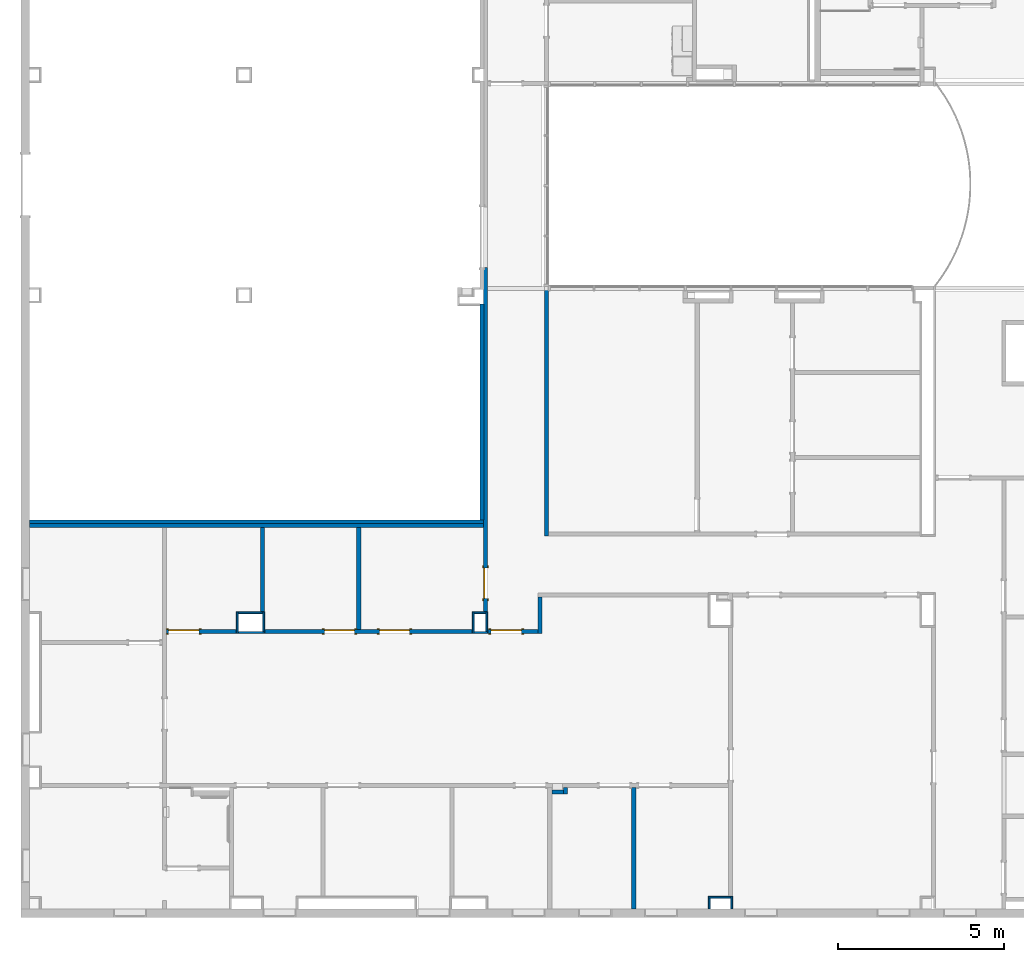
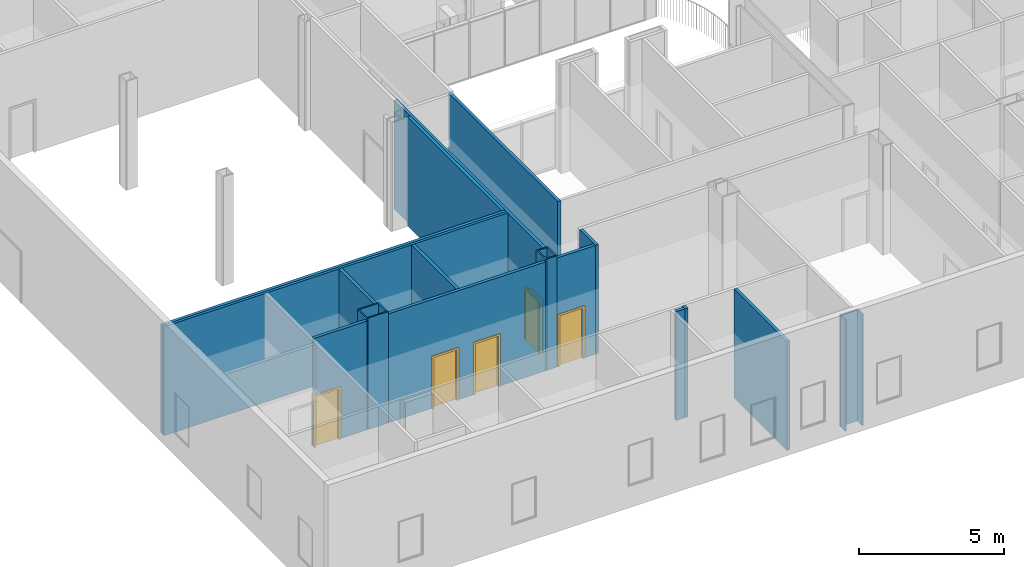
# One storey, part 7 of 45: 25 walls, 5 doors, 5 openings.
"""IFC2X3 building model written with IfcOpenShell, lengths in metres."""

from ifc_helpers import new_model, entity, si_unit, converted_unit, frame, frame_2d, origin, origin_2d_with_axis, place, context, project, spatial, polyline, rectangle, outline, extrude, source, transform, mapped, material, layer, layer_set, layer_usage, type_object, type_shapes, element, fill, save


model = new_model("IFC2X3")

# Units and contexts
model_context = context("Model", 3, precision=1e-09, world=origin())
plan_context = context("Plan", 3, precision=1e-09, world=origin())
ifc_project = project(units=[si_unit("LENGTHUNIT", "METRE"), si_unit("AREAUNIT", "SQUARE_METRE"), si_unit("VOLUMEUNIT", "CUBIC_METRE"), converted_unit("PLANEANGLEUNIT", "DEGREE", entity("IfcRatioMeasure", 0.01745329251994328), si_unit("PLANEANGLEUNIT", "RADIAN"), dimensions=[0, 0, 0, 0, 0, 0, 0]), si_unit("TIMEUNIT", "SECOND")], contexts=[model_context, plan_context])

# Site, building, storey
site_placement = place(None, origin())
site = spatial("IfcSite", under=ifc_project, at=site_placement, Name="Default", CompositionType="ELEMENT")
building_placement = place(site_placement, origin())
building = spatial("IfcBuilding", under=site, at=building_placement, CompositionType="ELEMENT")
storey_placement = place(building_placement, frame((0.0, 0.0, 4.570000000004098)))
storey = spatial("IfcBuildingStorey", under=building, at=storey_placement, Name="Second Floor", CompositionType="ELEMENT", Elevation=4.570000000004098)

# Wall, opening, door
ifc_material_1 = material(Name="Plasterboard")
ifc_layer_1 = layer(ifc_material_1, 0.016)
ifc_material_2 = material(Name="Metal - Stud Layer")
ifc_layer_2 = layer(ifc_material_2, 0.092)
ifc_layer_3 = layer(ifc_material_1, 0.016)
ifc_layer_set_1 = layer_set([ifc_layer_1, ifc_layer_2, ifc_layer_3], Name="Basic Wall:Interior - Partition (92mm Stud)")
ifc_layer_usage_1 = layer_usage(ifc_layer_set_1, "AXIS2", "NEGATIVE", 0.062)
wall_1_placement = place(storey_placement, frame((-33.3820000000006, 29.24387433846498, 0.0), z_axis=(0.0, 0.0, 1.0), x_axis=(0.0, -1.0, 0.0)))
wall_1 = element("IfcWallStandardCase", 1, at=wall_1_placement, inside=storey, material=ifc_layer_usage_1, Name="Basic Wall:Interior - Partition (92mm Stud)", ObjectType="Basic Wall:Interior - Partition (92mm Stud)", context=model_context, shape_type="SweptSolid", body=[
    extrude(rectangle(XDim=10.36943562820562, YDim=0.1239999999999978, at=frame_2d((5.18471781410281, 0.0), x_axis=(-1.0, 0.0))), origin(), (0.0, 0.0, 1.0), 4.577999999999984),
])
opening_1_placement = place(wall_1_placement, frame((9.969435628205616, 0.06199999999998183, 0.0)))
opening_1 = element("IfcOpeningElement", 2, at=opening_1_placement, cuts=wall_1, Name="M_Single-Flush:0915 x 2134mm:0915 x 2134mm:1", ObjectType="Opening", context=model_context, shape_type="SweptSolid", body=[
    extrude(rectangle(XDim=0.9149999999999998, YDim=2.134, at=frame_2d((1.067, 0.4574999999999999), x_axis=(0.0, -1.0))), frame((0.0, 0.0, 0.0), z_axis=(0.0, -1.0, 0.0), x_axis=(0.0, 0.0, 1.0)), (0.0, 0.0, 1.0), 0.124),
])
door_style_1 = type_object("IfcDoorStyle", Name="0915 x 2134mm", ConstructionType="NOTDEFINED", OperationType="SINGLE_SWING_LEFT", ParameterTakesPrecedence=False, Sizeable=False)
shared_shape_1 = source(origin(), model_context, "Body", "SweptSolid", [
    extrude(outline(polyline([(-0.5335, -1.123999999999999), (0.5334999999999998, -1.123999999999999), (0.5334999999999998, 1.086), (0.4574999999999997, 1.086), (0.4574999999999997, -1.048000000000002), (-0.4574999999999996, -1.048000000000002), (-0.4574999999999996, 1.086), (-0.5335, 1.086), (-0.5335, -1.123999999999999)])), frame((0.4575000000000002, 0.1489999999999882, 1.086), z_axis=(0.0, -1.0, 0.0), x_axis=(-1.0, 0.0, 0.0)), (0.0, 0.0, 1.0), 0.02499999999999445),
    extrude(outline(polyline([(-1.123999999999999, -0.5334999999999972), (1.085999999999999, -0.5334999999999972), (1.085999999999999, -0.4575000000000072), (-1.048, -0.4575000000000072), (-1.048, 0.4575000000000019), (1.085999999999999, 0.4575000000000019), (1.085999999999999, 0.5335000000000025), (-1.123999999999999, 0.5335000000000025), (-1.123999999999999, -0.5334999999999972)])), frame((0.4574999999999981, 0.0, 1.085999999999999), z_axis=(0.0, -1.0, 0.0), x_axis=(0.0, 0.0, -1.0)), (0.0, 0.0, 1.0), 0.02500000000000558),
    extrude(rectangle(XDim=0.9149999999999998, YDim=0.051, at=origin_2d_with_axis()), frame((0.4575000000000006, 0.09849999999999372, 0.0)), (0.0, 0.0, 1.0), 2.133999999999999),
])
type_shapes(door_style_1, [shared_shape_1])
door_1_placement = place(opening_1_placement, frame((0.0, 0.0, 0.0), z_axis=(0.0, 0.0, 1.0), x_axis=(-1.0, 0.0, 0.0)))
door_1 = element("IfcDoor", 3, at=door_1_placement, inside=storey, type_object=door_style_1, Name="M_Single-Flush:0915 x 2134mm:0915 x 2134mm", ObjectType="0915 x 2134mm", OverallHeight=2.134, OverallWidth=0.9149999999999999, context=model_context, shape_type="MappedRepresentation", body=[
    mapped(shared_shape_1, transform((0.0, 0.0, 0.0), scale=1.0)),
])
fill(opening_1, door_1)

# Wall, openings, doors
wall_2_placement = place(storey_placement, frame((-33.78000000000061, 18.28643871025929, 0.0), z_axis=(0.0, 0.0, 1.0), x_axis=(-1.0, 0.0, 0.0)))
wall_2 = element("IfcWallStandardCase", 4, at=wall_2_placement, inside=storey, material=ifc_layer_usage_1, Name="Basic Wall:Interior - Partition (92mm Stud)", ObjectType="Basic Wall:Interior - Partition (92mm Stud)", context=model_context, shape_type="SweptSolid", body=[
    extrude(rectangle(XDim=6.254999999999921, YDim=0.1240000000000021, at=frame_2d((3.12749999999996, 0.0), x_axis=(-1.0, 0.0))), origin(), (0.0, 0.0, 1.0), 4.577999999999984),
])
opening_2_placement = place(wall_2_placement, frame((2.799999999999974, 0.06199999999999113, 0.0)))
opening_2 = element("IfcOpeningElement", 5, at=opening_2_placement, cuts=wall_2, Name=":1", ObjectType="Opening", context=model_context, shape_type="SweptSolid", body=[
    extrude(rectangle(XDim=0.9149999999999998, YDim=2.134, at=frame_2d((1.067, 0.4574999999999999), x_axis=(0.0, -1.0))), frame((0.0, 0.0, 0.0), z_axis=(0.0, -1.0, 0.0), x_axis=(0.0, 0.0, 1.0)), (0.0, 0.0, 1.0), 0.124),
])
opening_3_placement = place(wall_2_placement, frame((4.458999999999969, 0.06199999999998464, 0.0)))
opening_3 = element("IfcOpeningElement", 6, at=opening_3_placement, cuts=wall_2, Name=":1", ObjectType="Opening", context=model_context, shape_type="SweptSolid", body=[
    extrude(rectangle(XDim=0.9149999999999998, YDim=2.134, at=frame_2d((1.067, 0.4575), x_axis=(0.0, 1.0))), frame((0.0, 0.0, 0.0), z_axis=(0.0, -1.0, 0.0), x_axis=(0.0, 0.0, 1.0)), (0.0, 0.0, 1.0), 0.124),
])
door_style_2 = type_object("IfcDoorStyle", Name="0915 x 2134mm", ConstructionType="NOTDEFINED", OperationType="SINGLE_SWING_RIGHT", ParameterTakesPrecedence=False, Sizeable=False)
shared_shape_2 = source(origin(), model_context, "Body", "SweptSolid", [
    extrude(outline(polyline([(-0.5335, -1.123999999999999), (0.5334999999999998, -1.123999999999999), (0.5334999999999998, 1.086), (0.4574999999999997, 1.086), (0.4574999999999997, -1.048000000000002), (-0.4574999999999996, -1.048000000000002), (-0.4574999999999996, 1.086), (-0.5335, 1.086), (-0.5335, -1.123999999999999)])), frame((0.4575000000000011, 0.1239999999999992, 1.086), z_axis=(0.0, 1.0, 0.0), x_axis=(1.0, 0.0, 0.0)), (0.0, 0.0, 1.0), 0.02499999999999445),
    extrude(outline(polyline([(-1.123999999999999, -0.5334999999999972), (1.085999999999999, -0.5334999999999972), (1.085999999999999, -0.4575000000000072), (-1.048, -0.4575000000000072), (-1.048, 0.4575000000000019), (1.085999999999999, 0.4575000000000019), (1.085999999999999, 0.5335000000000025), (-1.123999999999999, 0.5335000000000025), (-1.123999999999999, -0.5334999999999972)])), frame((0.4575000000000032, -0.02500000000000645, 1.085999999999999), z_axis=(0.0, 1.0, 0.0), x_axis=(0.0, 0.0, -1.0)), (0.0, 0.0, 1.0), 0.02500000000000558),
    extrude(rectangle(XDim=0.051, YDim=0.9149999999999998, at=origin_2d_with_axis()), frame((0.4575000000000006, 0.09849999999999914, 0.0), z_axis=(0.0, 0.0, 1.0), x_axis=(0.0, 1.0, 0.0)), (0.0, 0.0, 1.0), 2.133999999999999),
])
type_shapes(door_style_2, [shared_shape_2])
door_2_placement = place(opening_3_placement, frame((0.0, 0.0, 0.0), z_axis=(0.0, 0.0, 1.0), x_axis=(-1.0, 0.0, 0.0)))
door_2 = element("IfcDoor", 7, at=door_2_placement, inside=storey, type_object=door_style_2, Name="M_Single-Flush:0915 x 2134mm:0915 x 2134mm", ObjectType="0915 x 2134mm", OverallHeight=2.134, OverallWidth=0.9149999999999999, context=model_context, shape_type="MappedRepresentation", body=[
    mapped(shared_shape_2, transform((0.0, 0.0, 0.0), scale=1.0)),
])
fill(opening_3, door_2)
door_3_placement = place(opening_2_placement, frame((0.0, 0.0, 0.0), z_axis=(0.0, 0.0, 1.0), x_axis=(-1.0, 0.0, 0.0)))
door_3 = element("IfcDoor", 8, at=door_3_placement, inside=storey, type_object=door_style_1, Name="M_Single-Flush:0915 x 2134mm:0915 x 2134mm", ObjectType="0915 x 2134mm", OverallHeight=2.134, OverallWidth=0.9149999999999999, context=model_context, shape_type="MappedRepresentation", body=[
    mapped(shared_shape_1, transform((0.0, 0.0, 0.0), scale=1.0)),
])
fill(opening_2, door_3)

# Wall
wall_3_placement = place(storey_placement, frame((-33.44400000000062, 21.47643871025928, 0.0), z_axis=(0.0, 0.0, 1.0), x_axis=(-1.0, 0.0, 0.0)))
element("IfcWallStandardCase", 9, at=wall_3_placement, inside=storey, material=ifc_layer_usage_1, Name="Basic Wall:Interior - Partition (92mm Stud)", ObjectType="Basic Wall:Interior - Partition (92mm Stud)", context=model_context, shape_type="SweptSolid", body=[
    extrude(rectangle(XDim=13.669, YDim=0.1239999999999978, at=frame_2d((6.834500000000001, 0.0), x_axis=(-1.0, 0.0))), origin(), (0.0, 0.0, 1.0), 4.577999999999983),
])

# Wall, opening, door
wall_4_placement = place(storey_placement, frame((-31.80000000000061, 18.28643871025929, 0.0), z_axis=(0.0, 0.0, 1.0), x_axis=(-1.0, 0.0, 0.0)))
wall_4 = element("IfcWallStandardCase", 10, at=wall_4_placement, inside=storey, material=ifc_layer_usage_1, Name="Basic Wall:Interior - Partition (92mm Stud)", ObjectType="Basic Wall:Interior - Partition (92mm Stud)", context=model_context, shape_type="SweptSolid", body=[
    extrude(rectangle(XDim=1.520000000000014, YDim=0.1240000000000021, at=frame_2d((0.760000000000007, 0.0), x_axis=(-1.0, 0.0))), origin(), (0.0, 0.0, 1.0), 4.577999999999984),
])
opening_4_placement = place(wall_4_placement, frame((1.42000000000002, 0.06199999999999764, 0.0)))
opening_4 = element("IfcOpeningElement", 11, at=opening_4_placement, cuts=wall_4, Name="M_Single-Flush:0915 x 2134mm:0915 x 2134mm:1", ObjectType="Opening", context=model_context, shape_type="SweptSolid", body=[
    extrude(rectangle(XDim=0.9149999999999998, YDim=2.134, at=frame_2d((1.067, 0.4575000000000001), x_axis=(0.0, -1.0))), frame((0.0, 0.0, 0.0), z_axis=(0.0, -1.0, 0.0), x_axis=(0.0, 0.0, 1.0)), (0.0, 0.0, 1.0), 0.124),
])
door_4_placement = place(opening_4_placement, frame((0.0, 0.0, 0.0), z_axis=(0.0, 0.0, 1.0), x_axis=(-1.0, 0.0, 0.0)))
door_4 = element("IfcDoor", 12, at=door_4_placement, inside=storey, type_object=door_style_1, Name="M_Single-Flush:0915 x 2134mm:0915 x 2134mm", ObjectType="0915 x 2134mm", OverallHeight=2.134, OverallWidth=0.9149999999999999, context=model_context, shape_type="MappedRepresentation", body=[
    mapped(shared_shape_1, transform((0.0, 0.0, 0.0), scale=1.0)),
])
fill(opening_4, door_4)

# Walls
wall_5_placement = place(storey_placement, frame((-31.54800000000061, 28.69019840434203, 0.0), z_axis=(0.0, 0.0, 1.0), x_axis=(0.0, -1.0, 0.0)))
element("IfcWallStandardCase", 13, at=wall_5_placement, inside=storey, material=ifc_layer_usage_1, Name="Basic Wall:Interior - Partition (92mm Stud)", ObjectType="Basic Wall:Interior - Partition (92mm Stud)", context=model_context, shape_type="SweptSolid", body=[
    extrude(rectangle(XDim=7.53575969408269, YDim=0.1240000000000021, at=frame_2d((3.767879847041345, 0.0), x_axis=(-1.0, 0.0))), origin(), (0.0, 0.0, 1.0), 4.577999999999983),
])
ifc_layer_4 = layer(ifc_material_2, 0.038)
ifc_layer_5 = layer(ifc_material_1, 0.016)
ifc_layer_set_2 = layer_set([ifc_layer_4, ifc_layer_5], Name="Basic Wall:Interior - Furring (38 mm Stud)")
ifc_layer_usage_2 = layer_usage(ifc_layer_set_2, "AXIS2", "NEGATIVE", 0.027)
wall_6_placement = place(storey_placement, frame((-33.34700000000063, 18.27843871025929, 0.0), z_axis=(0.0, 0.0, 1.0), x_axis=(0.0, 1.0, 0.0)))
element("IfcWallStandardCase", 14, at=wall_6_placement, inside=storey, material=ifc_layer_usage_2, Name="Basic Wall:Interior - Furring (38 mm Stud)", ObjectType="Basic Wall:Interior - Furring (38 mm Stud)", context=model_context, shape_type="SweptSolid", body=[
    extrude(rectangle(XDim=0.5960000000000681, YDim=0.05399999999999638, at=frame_2d((0.2980000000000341, 0.0), x_axis=(-1.0, 0.0))), origin(), (0.0, 0.0, 1.0), 4.679999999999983),
])
wall_7_placement = place(storey_placement, frame((-40.09700000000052, 21.4144387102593, 0.0), z_axis=(0.0, 0.0, 1.0), x_axis=(0.0, -1.0, 0.0)))
element("IfcWallStandardCase", 15, at=wall_7_placement, inside=storey, material=ifc_layer_usage_1, Name="Basic Wall:Interior - Partition (92mm Stud)", ObjectType="Basic Wall:Interior - Partition (92mm Stud)", context=model_context, shape_type="SweptSolid", body=[
    extrude(rectangle(XDim=2.539999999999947, YDim=0.1240000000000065, at=frame_2d((1.269999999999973, 0.0), x_axis=(-1.0, 0.0))), origin(), (0.0, 0.0, 1.0), 4.577999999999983),
])
wall_8_placement = place(storey_placement, frame((-40.06200000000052, 18.27843871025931, 0.0), z_axis=(0.0, 0.0, 1.0), x_axis=(0.0, 1.0, 0.0)))
element("IfcWallStandardCase", 16, at=wall_8_placement, inside=storey, material=ifc_layer_usage_2, Name="Basic Wall:Interior - Furring (38 mm Stud)", ObjectType="Basic Wall:Interior - Furring (38 mm Stud)", context=model_context, shape_type="SweptSolid", body=[
    extrude(rectangle(XDim=0.5960000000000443, YDim=0.05400000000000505, at=frame_2d((0.2980000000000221, 0.0), x_axis=(-1.0, 0.0))), origin(), (0.0, 0.0, 1.0), 4.679999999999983),
])
wall_9_placement = place(storey_placement, frame((-33.72600000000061, 18.25143871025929, 0.0)))
element("IfcWallStandardCase", 17, at=wall_9_placement, inside=storey, material=ifc_layer_usage_2, Name="Basic Wall:Interior - Furring (38 mm Stud)", ObjectType="Basic Wall:Interior - Furring (38 mm Stud)", context=model_context, shape_type="SweptSolid", body=[
    extrude(rectangle(XDim=0.40599999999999, YDim=0.05400000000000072, at=frame_2d((0.202999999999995, 0.0), x_axis=(-1.0, 0.0))), origin(), (0.0, 0.0, 1.0), 4.679999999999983),
])

# Wall, opening, door
wall_10_placement = place(storey_placement, frame((-40.8900000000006, 18.28643871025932, 0.0), z_axis=(0.0, 0.0, 1.0), x_axis=(-1.0, 0.0, 0.0)))
wall_10 = element("IfcWallStandardCase", 18, at=wall_10_placement, inside=storey, material=ifc_layer_usage_1, Name="Basic Wall:Interior - Partition (92mm Stud)", ObjectType="Basic Wall:Interior - Partition (92mm Stud)", context=model_context, shape_type="SweptSolid", body=[
    extrude(rectangle(XDim=2.095999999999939, YDim=0.1240000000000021, at=frame_2d((1.04799999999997, 0.0), x_axis=(-1.0, 0.0))), origin(), (0.0, 0.0, 1.0), 4.577999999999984),
])
opening_5_placement = place(wall_10_placement, frame((2.035999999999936, 0.06199999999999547, 0.0)))
opening_5 = element("IfcOpeningElement", 19, at=opening_5_placement, cuts=wall_10, Name=":1", ObjectType="Opening", context=model_context, shape_type="SweptSolid", body=[
    extrude(rectangle(XDim=0.9149999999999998, YDim=2.134, at=frame_2d((1.067, 0.4575000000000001), x_axis=(0.0, -1.0))), frame((0.0, 0.0, 0.0), z_axis=(0.0, -1.0, 0.0), x_axis=(0.0, 0.0, 1.0)), (0.0, 0.0, 1.0), 0.124),
])
door_5_placement = place(opening_5_placement, frame((0.0, 0.0, 0.0), z_axis=(0.0, 0.0, 1.0), x_axis=(-1.0, 0.0, 0.0)))
door_5 = element("IfcDoor", 20, at=door_5_placement, inside=storey, type_object=door_style_1, Name="M_Single-Flush:0915 x 2134mm:0915 x 2134mm", ObjectType="0915 x 2134mm", OverallHeight=2.134, OverallWidth=0.9149999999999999, context=model_context, shape_type="MappedRepresentation", body=[
    mapped(shared_shape_1, transform((0.0, 0.0, 0.0), scale=1.0)),
])
fill(opening_5, door_5)

# Walls
wall_11_placement = place(storey_placement, frame((-25.99400000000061, 10.27999999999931, 0.0), z_axis=(0.0, 0.0, 1.0), x_axis=(-1.0, 0.0, 0.0)))
element("IfcWallStandardCase", 21, at=wall_11_placement, inside=storey, material=ifc_layer_usage_2, Name="Basic Wall:Interior - Furring (38 mm Stud)", ObjectType="Basic Wall:Interior - Furring (38 mm Stud)", context=model_context, shape_type="SweptSolid", body=[
    extrude(rectangle(XDim=0.6759999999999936, YDim=0.05400000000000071, at=frame_2d((0.3379999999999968, 0.0), x_axis=(-1.0, 0.0))), origin(), (0.0, 0.0, 1.0), 4.679999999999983),
])
wall_12_placement = place(storey_placement, frame((-40.08900000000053, 18.84743871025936, 0.0), z_axis=(0.0, 0.0, 1.0), x_axis=(-1.0, 0.0, 0.0)))
element("IfcWallStandardCase", 22, at=wall_12_placement, inside=storey, material=ifc_layer_usage_2, Name="Basic Wall:Interior - Furring (38 mm Stud)", ObjectType="Basic Wall:Interior - Furring (38 mm Stud)", context=model_context, shape_type="SweptSolid", body=[
    extrude(rectangle(XDim=0.7470000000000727, YDim=0.05400000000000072, at=frame_2d((0.3735000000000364, 0.0), x_axis=(-1.0, 0.0))), origin(), (0.0, 0.0, 1.0), 4.679999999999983),
])
wall_13_placement = place(storey_placement, frame((-25.96700000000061, 9.926999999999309, 0.0), z_axis=(0.0, 0.0, 1.0), x_axis=(0.0, 1.0, 0.0)))
element("IfcWallStandardCase", 23, at=wall_13_placement, inside=storey, material=ifc_layer_usage_2, Name="Basic Wall:Interior - Furring (38 mm Stud)", ObjectType="Basic Wall:Interior - Furring (38 mm Stud)", context=model_context, shape_type="SweptSolid", body=[
    extrude(rectangle(XDim=0.3800000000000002, YDim=0.05399999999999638, at=frame_2d((0.1900000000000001, 0.0), x_axis=(-1.0, 0.0))), origin(), (0.0, 0.0, 1.0), 4.679999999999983),
])
wall_14_placement = place(storey_placement, frame((-33.37400000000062, 18.84743871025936, 0.0), z_axis=(0.0, 0.0, 1.0), x_axis=(-1.0, 0.0, 0.0)))
element("IfcWallStandardCase", 24, at=wall_14_placement, inside=storey, material=ifc_layer_usage_2, Name="Basic Wall:Interior - Furring (38 mm Stud)", ObjectType="Basic Wall:Interior - Furring (38 mm Stud)", context=model_context, shape_type="SweptSolid", body=[
    extrude(rectangle(XDim=0.3519999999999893, YDim=0.05400000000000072, at=frame_2d((0.1759999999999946, 0.0), x_axis=(-1.0, 0.0))), origin(), (0.0, 0.0, 1.0), 4.679999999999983),
])
wall_15_placement = place(storey_placement, frame((-40.8360000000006, 18.25143871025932, 0.0)))
element("IfcWallStandardCase", 25, at=wall_15_placement, inside=storey, material=ifc_layer_usage_2, Name="Basic Wall:Interior - Furring (38 mm Stud)", ObjectType="Basic Wall:Interior - Furring (38 mm Stud)", context=model_context, shape_type="SweptSolid", body=[
    extrude(rectangle(XDim=0.8010000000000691, YDim=0.05400000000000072, at=frame_2d((0.4005000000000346, 0.0), x_axis=(-1.0, 0.0))), origin(), (0.0, 0.0, 1.0), 4.679999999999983),
])
wall_16_placement = place(storey_placement, frame((-33.75300000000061, 18.87443871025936, 0.0), z_axis=(0.0, 0.0, 1.0), x_axis=(0.0, -1.0, 0.0)))
element("IfcWallStandardCase", 26, at=wall_16_placement, inside=storey, material=ifc_layer_usage_2, Name="Basic Wall:Interior - Furring (38 mm Stud)", ObjectType="Basic Wall:Interior - Furring (38 mm Stud)", context=model_context, shape_type="SweptSolid", body=[
    extrude(rectangle(XDim=0.6500000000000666, YDim=0.05399999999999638, at=frame_2d((0.3250000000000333, 0.0), x_axis=(-1.0, 0.0))), origin(), (0.0, 0.0, 1.0), 4.679999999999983),
])
wall_17_placement = place(storey_placement, frame((-33.48800000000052, 21.64443871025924, 0.0), z_axis=(0.0, 0.0, 1.0), x_axis=(0.0, 1.0, 0.0)))
element("IfcWallStandardCase", 27, at=wall_17_placement, inside=storey, material=ifc_layer_usage_1, Name="Basic Wall:Interior - Partition (92mm Stud)", ObjectType="Basic Wall:Interior - Partition (92mm Stud)", context=model_context, shape_type="SweptSolid", body=[
    extrude(rectangle(XDim=6.509000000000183, YDim=0.1239999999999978, at=frame_2d((3.254500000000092, 0.0), x_axis=(-1.0, 0.0))), origin(), (0.0, 0.0, 1.0), 4.577999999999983),
])
wall_18_placement = place(storey_placement, frame((-40.8630000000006, 18.87443871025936, 0.0), z_axis=(0.0, 0.0, 1.0), x_axis=(0.0, -1.0, 0.0)))
element("IfcWallStandardCase", 28, at=wall_18_placement, inside=storey, material=ifc_layer_usage_2, Name="Basic Wall:Interior - Furring (38 mm Stud)", ObjectType="Basic Wall:Interior - Furring (38 mm Stud)", context=model_context, shape_type="SweptSolid", body=[
    extrude(rectangle(XDim=0.6500000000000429, YDim=0.05400000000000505, at=frame_2d((0.3250000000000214, 0.0), x_axis=(-1.0, 0.0))), origin(), (0.0, 0.0, 1.0), 4.679999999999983),
])
wall_19_placement = place(storey_placement, frame((-37.20200000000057, 21.41443871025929, 0.0), z_axis=(0.0, 0.0, 1.0), x_axis=(0.0, -1.0, 0.0)))
element("IfcWallStandardCase", 29, at=wall_19_placement, inside=storey, material=ifc_layer_usage_1, Name="Basic Wall:Interior - Partition (92mm Stud)", ObjectType="Basic Wall:Interior - Partition (92mm Stud)", context=model_context, shape_type="SweptSolid", body=[
    extrude(rectangle(XDim=3.065999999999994, YDim=0.1239999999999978, at=frame_2d((1.532999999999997, 0.0), x_axis=(-1.0, 0.0))), origin(), (0.0, 0.0, 1.0), 4.577999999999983),
])
wall_20_placement = place(storey_placement, frame((-31.73800000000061, 18.22443871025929, 0.0), z_axis=(0.0, 0.0, 1.0), x_axis=(0.0, 1.0, 0.0)))
element("IfcWallStandardCase", 30, at=wall_20_placement, inside=storey, material=ifc_layer_usage_1, Name="Basic Wall:Interior - Partition (92mm Stud)", ObjectType="Basic Wall:Interior - Partition (92mm Stud)", context=model_context, shape_type="SweptSolid", body=[
    extrude(rectangle(XDim=1.09600000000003, YDim=0.1239999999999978, at=frame_2d((0.5480000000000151, 0.0), x_axis=(-1.0, 0.0))), origin(), (0.0, 0.0, 1.0), 4.577999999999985),
])
wall_21_placement = place(storey_placement, frame((-28.91700000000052, 13.58043871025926, 0.0), z_axis=(0.0, 0.0, 1.0), x_axis=(0.0, -1.0, 0.0)))
element("IfcWallStandardCase", 31, at=wall_21_placement, inside=storey, material=ifc_layer_usage_1, Name="Basic Wall:Interior - Partition (92mm Stud)", ObjectType="Basic Wall:Interior - Partition (92mm Stud)", context=model_context, shape_type="SweptSolid", body=[
    extrude(rectangle(XDim=3.653438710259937, YDim=0.1239999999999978, at=frame_2d((1.826719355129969, 0.0), x_axis=(-1.0, 0.0))), origin(), (0.0, 0.0, 1.0), 4.577999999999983),
])
wall_22_placement = place(storey_placement, frame((-30.97300000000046, 13.38543871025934, 0.0), z_axis=(0.0, 0.0, 1.0), x_axis=(0.0, 1.0, 0.0)))
element("IfcWallStandardCase", 32, at=wall_22_placement, inside=storey, material=ifc_layer_usage_1, Name="Basic Wall:Interior - Partition (92mm Stud)", ObjectType="Basic Wall:Interior - Partition (92mm Stud)", context=model_context, shape_type="SweptSolid", body=[
    extrude(rectangle(XDim=0.194999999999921, YDim=0.1239999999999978, at=frame_2d((0.09749999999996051, 0.0), x_axis=(-1.0, 0.0))), origin(), (0.0, 0.0, 1.0), 4.577999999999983),
])
wall_23_placement = place(storey_placement, frame((-31.38500000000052, 13.44743871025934, 0.0)))
element("IfcWallStandardCase", 33, at=wall_23_placement, inside=storey, material=ifc_layer_usage_1, Name="Basic Wall:Interior - Partition (92mm Stud)", ObjectType="Basic Wall:Interior - Partition (92mm Stud)", context=model_context, shape_type="SweptSolid", body=[
    extrude(rectangle(XDim=0.3500000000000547, YDim=0.1240000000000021, at=frame_2d((0.1750000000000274, 0.0), x_axis=(-1.0, 0.0))), origin(), (0.0, 0.0, 1.0), 4.577999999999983),
])
wall_24_placement = place(storey_placement, frame((-26.6430000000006, 10.25299999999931, 0.0), z_axis=(0.0, 0.0, 1.0), x_axis=(0.0, -1.0, 0.0)))
element("IfcWallStandardCase", 34, at=wall_24_placement, inside=storey, material=ifc_layer_usage_2, Name="Basic Wall:Interior - Furring (38 mm Stud)", ObjectType="Basic Wall:Interior - Furring (38 mm Stud)", context=model_context, shape_type="SweptSolid", body=[
    extrude(rectangle(XDim=0.3259999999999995, YDim=0.05399999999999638, at=frame_2d((0.1629999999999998, 0.0), x_axis=(-1.0, 0.0))), origin(), (0.0, 0.0, 1.0), 4.679999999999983),
])
wall_25_placement = place(storey_placement, frame((-47.11300000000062, 21.58243871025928, 0.0)))
element("IfcWallStandardCase", 35, at=wall_25_placement, inside=storey, material=ifc_layer_usage_1, Name="Basic Wall:Interior - Partition (92mm Stud)", ObjectType="Basic Wall:Interior - Partition (92mm Stud)", context=model_context, shape_type="SweptSolid", body=[
    extrude(rectangle(XDim=13.68700000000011, YDim=0.1239999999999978, at=frame_2d((6.843500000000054, 0.0), x_axis=(-1.0, 0.0))), origin(), (0.0, 0.0, 1.0), 4.577999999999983),
])

save(model, "model.ifc")
